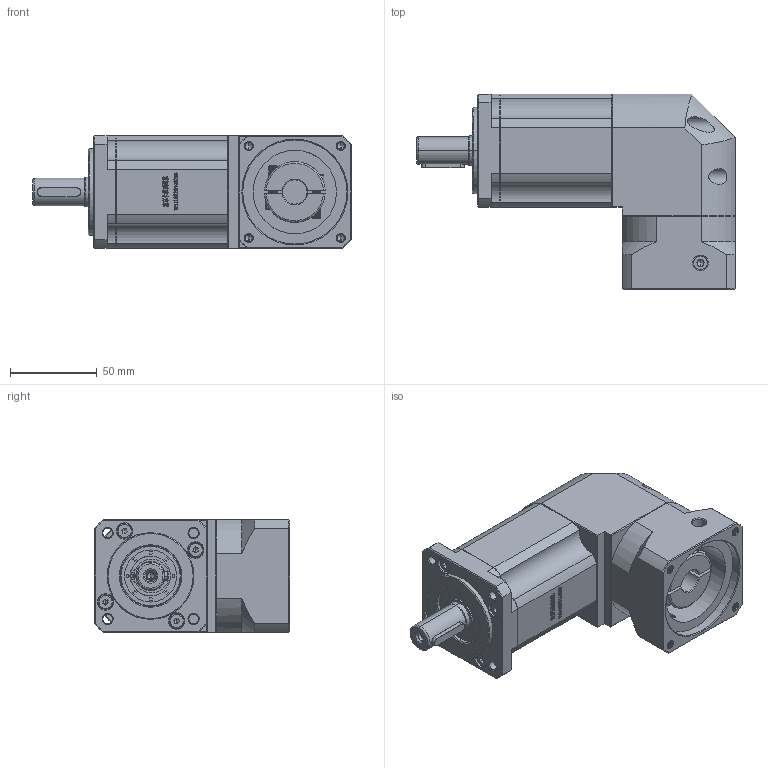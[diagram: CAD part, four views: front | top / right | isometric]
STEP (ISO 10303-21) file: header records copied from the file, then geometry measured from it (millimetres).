
FILE_DESCRIPTION (( 'STEP AP214' ), '1' );
FILE_NAME ('ZBR60-D16-L3-14-60-75-M5.STEP', '2022-04-19T08:58:49', ( '' ), ( 'Microsoft' ), 'SwSTEP 2.0', 'SolidWorks 2016', '' );
FILE_SCHEMA (( 'AUTOMOTIVE_DESIGN' ));
Length unit declared in the file: millimetre
Products named in the file (1): ZBR60-D16-L3-14-60-75-M5
Bounding box: 183.5 x 112.7 x 65 mm (x, y, z)
Volume: 662647.7 mm3; surface area: 87175.3 mm2
Topology: 5 solids, 5 shells, 2843 faces, 7713 edges, 5006 vertices
Faces by surface type: plane 1472, bspline 579, cylinder 432, cone 328, torus 32
Entity records: 155187 total; most frequent: CARTESIAN_POINT 56565, ORIENTED_EDGE 15366, DIRECTION 11723, EDGE_CURVE 7683, LINE 5059, VECTOR 5059, VERTEX_POINT 5006, AXIS2_PLACEMENT_3D 3332
